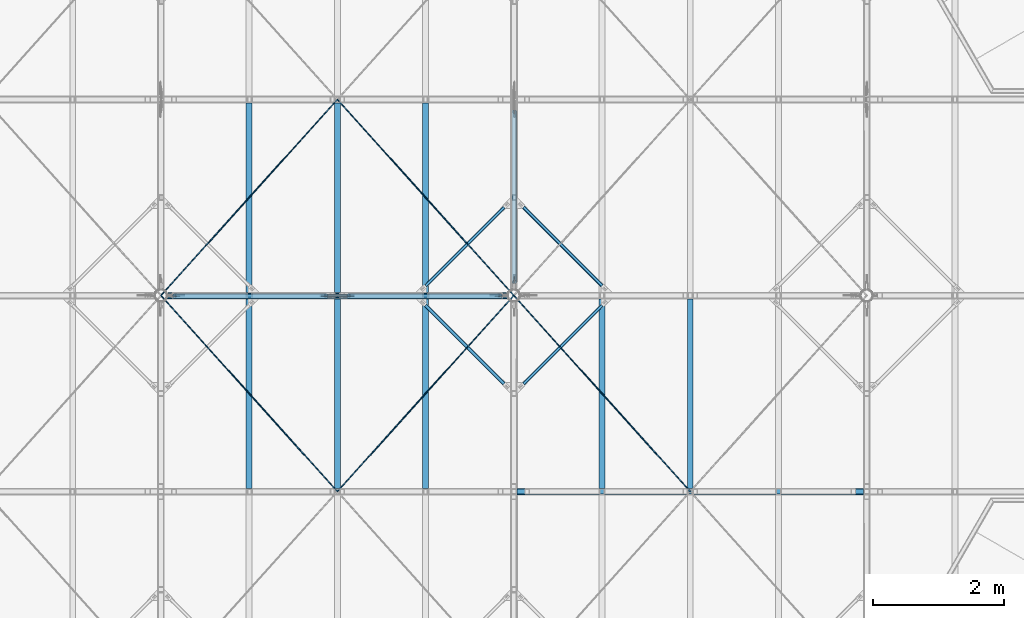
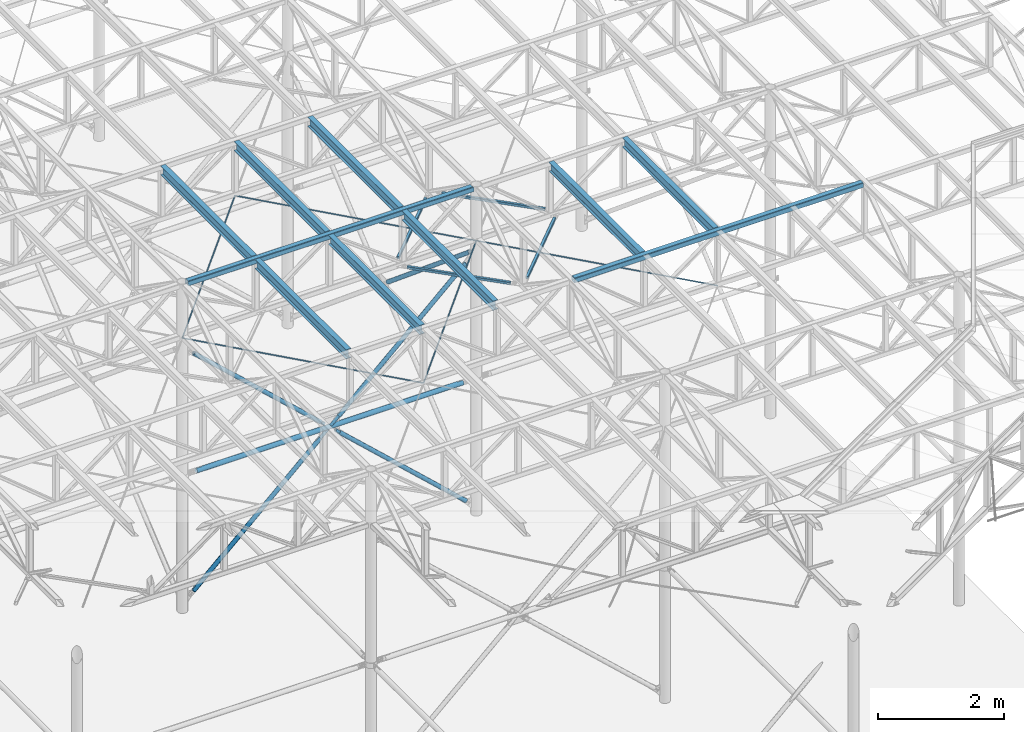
# One storey, part 13 of 132: 20 beams, 8 members, 28 elements without a shape of their own.
"""IFC2X3 building model written with IfcOpenShell, lengths in millimetres."""

from ifc_helpers import new_model, si_unit, frame, origin_with_axes, origin_2d_with_axis, place, context, subcontext, project, spatial, rectangle, hollow_rectangle, circle, hollow_circle, i_section, extrude, boolean, clip, halfspace, material, type_object, element, aggregate, save


model = new_model("IFC2X3")

# Units and contexts
model_context = context("Model", 3, precision=1e-05, world=origin_with_axes())
body_context = subcontext(model_context, "Body", "Model", "MODEL_VIEW")
ifc_project = project(units=[si_unit("LENGTHUNIT", "METRE", prefix="MILLI"), si_unit("AREAUNIT", "SQUARE_METRE"), si_unit("VOLUMEUNIT", "CUBIC_METRE"), si_unit("MASSUNIT", "GRAM", prefix="KILO"), si_unit("TIMEUNIT", "SECOND"), si_unit("PLANEANGLEUNIT", "RADIAN"), si_unit("SOLIDANGLEUNIT", "STERADIAN"), si_unit("THERMODYNAMICTEMPERATUREUNIT", "DEGREE_CELSIUS"), si_unit("LUMINOUSINTENSITYUNIT", "LUMEN")], contexts=[model_context])

# Site, building, storey
site_placement = place(None, origin_with_axes())
site = spatial("IfcSite", under=ifc_project, at=site_placement, Name="Budowa", CompositionType="ELEMENT")
building_placement = place(site_placement, origin_with_axes())
building = spatial("IfcBuilding", under=site, at=building_placement, Name="Undefined", CompositionType="ELEMENT")
storey_placement = place(building_placement, origin_with_axes())
storey = spatial("IfcBuildingStorey", under=building, at=storey_placement, Name="Undefined", CompositionType="ELEMENT", Elevation=0.0)

# Assembly, member
assembly_1_placement = place(storey_placement, origin_with_axes())
assembly_1 = element("IfcElementAssembly", 1, at=assembly_1_placement, inside=storey, Name="Steel Assembly", AssemblyPlace="NOTDEFINED", PredefinedType="RIGID_FRAME")
ifc_material_1 = material(Name="STEEL/S235JR")
member_type_1 = type_object("IfcMemberType", Name="CHS76.1*3", PredefinedType="NOTDEFINED")
member_1_placement = place(assembly_1_placement, frame((14833.0000023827, 15000.0003165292, 10116.000758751), z_axis=(-1.0, 0.0, 0.0), x_axis=(0.0, -0.76906919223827, 0.639165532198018)))
member_1 = element("IfcMember", 2, at=member_1_placement, type_object=member_type_1, material=ifc_material_1, Name="BEAM", ObjectType="CHS76.1*3", context=body_context, shape_type="CSG", body=[
    boolean("DIFFERENCE", boolean("DIFFERENCE", boolean("DIFFERENCE", boolean("DIFFERENCE", extrude(hollow_circle(Radius=38.05, WallThickness=3.0, at=origin_2d_with_axis()), frame((3633.55016925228, 2.01702552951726e-13, 0.0), z_axis=(-1.0, 0.0, 0.0), x_axis=(0.0, -1.0, 0.0)), (0.0, 0.0, 1.0), 3395.69), extrude(rectangle(XDim=10.0, YDim=80.1, at=origin_2d_with_axis()), frame((318.860379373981, -4.43045600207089e-12, 2.01593366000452e-06), z_axis=(-1.0, 0.0, 0.0), x_axis=(0.0, 0.0, 1.0)), (0.0, 0.0, 1.0), 83.0)), extrude(rectangle(XDim=10.0, YDim=78.0, at=origin_2d_with_axis()), frame((3552.55016925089, 7.63649267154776e-08, 2.41727320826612e-06), z_axis=(1.0, 0.0, 0.0), x_axis=(0.0, 0.0, 1.0)), (0.0, 0.0, 1.0), 93.0)), halfspace(frame((3633.55016925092, 7.63648131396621e-08, 12.0000024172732), z_axis=(-1.0, 0.0, 0.0), x_axis=(0.0, -1.0, 0.0)), True)), halfspace(frame((237.860375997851, -1.09139364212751e-11, 12.0000032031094), z_axis=(1.0, 0.0, 0.0), x_axis=(0.0, 1.0, 0.0)), True)),
])
aggregate(assembly_1, [member_1])

assembly_2_placement = place(storey_placement, origin_with_axes())
assembly_2 = element("IfcElementAssembly", 3, at=assembly_2_placement, inside=storey, Name="Steel Assembly", AssemblyPlace="NOTDEFINED", PredefinedType="RIGID_FRAME")
member_2_placement = place(assembly_2_placement, frame((12125.000921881, 11990.0000000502, 10115.9999960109), z_axis=(0.0, -1.0, 0.0), x_axis=(-0.734552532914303, 0.0, -0.67855182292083)))
member_2 = element("IfcMember", 4, at=member_2_placement, type_object=member_type_1, material=ifc_material_1, Name="BEAM", ObjectType="CHS76.1*3", context=body_context, shape_type="CSG", body=[
    boolean("DIFFERENCE", boolean("DIFFERENCE", boolean("DIFFERENCE", boolean("DIFFERENCE", extrude(hollow_circle(Radius=38.05, WallThickness=3.0, at=origin_2d_with_axis()), frame((3399.19882110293, 0.0, 0.0), z_axis=(-1.0, 0.0, 0.0), x_axis=(0.0, -1.0, 0.0)), (0.0, 0.0, 1.0), 3169.77), extrude(rectangle(XDim=10.0, YDim=80.1, at=origin_2d_with_axis()), frame((310.424006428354, -6.75809408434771e-12, 2.93223274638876e-06), z_axis=(-1.0, 0.0, 0.0), x_axis=(0.0, 0.0, -1.0)), (0.0, 0.0, 1.0), 83.0)), extrude(rectangle(XDim=10.0, YDim=78.1, at=origin_2d_with_axis()), frame((3318.19882110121, -3.83376469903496e-07, 2.42306487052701e-06), z_axis=(1.0, 0.0, 0.0), x_axis=(0.0, 0.0, -1.0)), (0.0, 0.0, 1.0), 93.0)), halfspace(frame((3399.19882110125, -3.83374754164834e-07, -11.9999975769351), z_axis=(-1.0, 0.0, 0.0), x_axis=(0.0, 1.0, 0.0)), True)), halfspace(frame((229.424006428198, -7.27595761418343e-12, -11.9999970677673), z_axis=(1.0, 0.0, 0.0), x_axis=(0.0, -1.0, 0.0)), True)),
])
aggregate(assembly_2, [member_2])

assembly_3_placement = place(storey_placement, origin_with_axes())
assembly_3 = element("IfcElementAssembly", 5, at=assembly_3_placement, inside=storey, Name="Steel Assembly", AssemblyPlace="NOTDEFINED", PredefinedType="RIGID_FRAME")
member_3_placement = place(assembly_3_placement, frame((12125.0013347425, 11990.0000000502, 10116.0003779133), z_axis=(0.0, -1.0, 0.0), x_axis=(0.734552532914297, 0.0, -0.678551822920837)))
member_3 = element("IfcMember", 6, at=member_3_placement, type_object=member_type_1, material=ifc_material_1, Name="BEAM", ObjectType="CHS76.1*3", context=body_context, shape_type="CSG", body=[
    boolean("DIFFERENCE", boolean("DIFFERENCE", boolean("DIFFERENCE", boolean("DIFFERENCE", extrude(hollow_circle(Radius=38.05, WallThickness=3.0, at=origin_2d_with_axis()), frame((3399.19575233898, -1.88693269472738e-13, 0.0), z_axis=(-1.0, 0.0, 0.0), x_axis=(0.0, -1.0, 0.0)), (0.0, 0.0, 1.0), 3169.77), extrude(rectangle(XDim=10.0, YDim=80.1, at=origin_2d_with_axis()), frame((310.424563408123, 8.74467165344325e-13, 2.93223274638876e-06), z_axis=(-1.0, 0.0, 0.0), x_axis=(0.0, 0.0, -1.0)), (0.0, 0.0, 1.0), 83.0)), extrude(rectangle(XDim=10.0, YDim=78.1, at=origin_2d_with_axis()), frame((3318.19575233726, 0.0, 2.70282180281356e-06), z_axis=(1.0, 0.0, 0.0), x_axis=(0.0, 0.0, -1.0)), (0.0, 0.0, 1.0), 93.0)), halfspace(frame((3399.1957523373, -5.45696821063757e-12, -11.9999972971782), z_axis=(-1.0, 0.0, 0.0), x_axis=(0.0, 1.0, 0.0)), True)), halfspace(frame((229.424563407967, 5.45696821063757e-12, -11.9999970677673), z_axis=(1.0, 0.0, 0.0), x_axis=(0.0, -1.0, 0.0)), True)),
])
aggregate(assembly_3, [member_3])

assembly_4_placement = place(storey_placement, origin_with_axes())
assembly_4 = element("IfcElementAssembly", 7, at=assembly_4_placement, inside=storey, Name="Steel Assembly", AssemblyPlace="NOTDEFINED", PredefinedType="RIGID_FRAME")
member_4_placement = place(assembly_4_placement, frame((14684.1014860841, 11990.0000000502, 12480.0002212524), z_axis=(0.0, -1.0, 0.0), x_axis=(-0.734552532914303, 0.0, -0.67855182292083)))
member_4 = element("IfcMember", 8, at=member_4_placement, type_object=member_type_1, material=ifc_material_1, Name="BEAM", ObjectType="CHS76.1*3", context=body_context, shape_type="CSG", body=[
    boolean("DIFFERENCE", boolean("DIFFERENCE", boolean("DIFFERENCE", boolean("DIFFERENCE", extrude(hollow_circle(Radius=38.05, WallThickness=3.0, at=origin_2d_with_axis()), frame((3254.46533546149, 0.0, 0.0), z_axis=(-1.0, 0.0, 0.0), x_axis=(0.0, -1.0, 0.0)), (0.0, 0.0, 1.0), 3169.77), extrude(rectangle(XDim=10.0, YDim=80.1, at=origin_2d_with_axis()), frame((3173.46533545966, 5.74262859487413e-12, 3.21735569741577e-06), z_axis=(1.0, 0.0, 0.0), x_axis=(0.0, 0.0, -1.0)), (0.0, 0.0, 1.0), 83.0)), extrude(rectangle(XDim=10.0, YDim=78.1, at=origin_2d_with_axis()), frame((165.694149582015, 0.0, 2.42306850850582e-06), z_axis=(-1.0, 0.0, 0.0), x_axis=(0.0, 0.0, -1.0)), (0.0, 0.0, 1.0), 93.0)), halfspace(frame((3254.46533545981, 3.63797880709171e-12, -11.9999967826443), z_axis=(-1.0, 0.0, 0.0), x_axis=(0.0, 1.0, 0.0)), True)), halfspace(frame((84.6941495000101, -0.00128033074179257, -11.9999975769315), z_axis=(1.0, 0.0, 0.0), x_axis=(0.0, -1.0, 0.0)), True)),
])
aggregate(assembly_4, [member_4])

assembly_5_placement = place(storey_placement, origin_with_axes())
assembly_5 = element("IfcElementAssembly", 9, at=assembly_5_placement, inside=storey, Name="Steel Assembly", AssemblyPlace="NOTDEFINED", PredefinedType="RIGID_FRAME")
member_5_placement = place(assembly_5_placement, frame((9565.90118396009, 11990.0000000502, 12480.0002212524), z_axis=(0.0, -1.0, 0.0), x_axis=(0.734552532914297, 0.0, -0.678551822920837)))
member_5 = element("IfcMember", 10, at=member_5_placement, type_object=member_type_1, material=ifc_material_1, Name="BEAM", ObjectType="CHS76.1*3", context=body_context, shape_type="CSG", body=[
    boolean("DIFFERENCE", boolean("DIFFERENCE", boolean("DIFFERENCE", boolean("DIFFERENCE", extrude(hollow_circle(Radius=38.05, WallThickness=3.0, at=origin_2d_with_axis()), frame((3254.46533546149, 0.0, 0.0), z_axis=(-1.0, 0.0, 0.0), x_axis=(0.0, -1.0, 0.0)), (0.0, 0.0, 1.0), 3169.77), extrude(rectangle(XDim=10.0, YDim=80.1, at=origin_2d_with_axis()), frame((3173.46533545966, 5.74262859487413e-12, 3.21735569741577e-06), z_axis=(1.0, 0.0, 0.0), x_axis=(0.0, 0.0, -1.0)), (0.0, 0.0, 1.0), 83.0)), extrude(rectangle(XDim=10.0, YDim=78.1, at=origin_2d_with_axis()), frame((165.690516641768, -1.58151269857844e-12, 2.52268364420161e-06), z_axis=(-1.0, 0.0, 0.0), x_axis=(0.0, 0.0, -1.0)), (0.0, 0.0, 1.0), 93.0)), halfspace(frame((3254.46533545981, 3.63797880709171e-12, -11.9999967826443), z_axis=(-1.0, 0.0, 0.0), x_axis=(0.0, 1.0, 0.0)), True)), halfspace(frame((84.6905166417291, 1.81898940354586e-12, -11.9999974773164), z_axis=(1.0, 0.0, 0.0), x_axis=(0.0, -1.0, 0.0)), True)),
])
aggregate(assembly_5, [member_5])

# Assembly, beam
assembly_6_placement = place(storey_placement, origin_with_axes())
assembly_6 = element("IfcElementAssembly", 11, at=assembly_6_placement, inside=storey, Name="Steel Assembly", AssemblyPlace="NOTDEFINED", PredefinedType="RIGID_FRAME")
beam_type_1 = type_object("IfcBeamType", Name="CHS88.9*3", PredefinedType="NOTDEFINED")
beam_1_placement = place(assembly_6_placement, frame((9513.90113818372, 11998.0000028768, 10116.0003779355), z_axis=(0.0, -1.0, 0.0), x_axis=(1.0, 0.0, 0.0)))
beam_1 = element("IfcBeam", 12, at=beam_1_placement, type_object=beam_type_1, material=ifc_material_1, Name="BEAM", ObjectType="CHS88.9*3", context=body_context, shape_type="CSG", body=[
    boolean("DIFFERENCE", boolean("DIFFERENCE", boolean("DIFFERENCE", boolean("DIFFERENCE", boolean("DIFFERENCE", extrude(hollow_circle(Radius=44.45, WallThickness=3.0, at=origin_2d_with_axis()), frame((5057.96216744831, 0.0, 0.0), z_axis=(-1.0, 0.0, 0.0), x_axis=(0.0, -1.0, 0.0)), (0.0, 0.0, 1.0), 4893.73), extrude(rectangle(XDim=9.0, YDim=92.9, at=origin_2d_with_axis()), frame((265.235555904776, 1.81898940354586e-12, 3.42543353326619e-06), z_axis=(-1.0, 0.0, 0.0), x_axis=(0.0, 0.0, 1.0)), (0.0, 0.0, 1.0), 103.0)), extrude(rectangle(XDim=9.0, YDim=92.9, at=origin_2d_with_axis()), frame((4956.96216744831, 1.81898940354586e-12, 3.42543353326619e-06), z_axis=(1.0, 0.0, 0.0), x_axis=(0.0, 0.0, -1.0)), (0.0, 0.0, 1.0), 103.0)), extrude(rectangle(XDim=8.0, YDim=80.1, at=origin_2d_with_axis()), frame((5006.96216666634, 0.0, 2.93223274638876e-06), z_axis=(1.0, 0.0, 0.0), x_axis=(0.0, 0.0, 1.0)), (0.0, 0.0, 1.0), 82.0)), halfspace(frame((5057.96216744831, 1.81898940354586e-12, -11.9999965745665), z_axis=(-1.0, 0.0, 0.0), x_axis=(0.0, 1.0, 0.0)), True)), halfspace(frame((164.235555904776, 1.81898940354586e-12, -11.9999965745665), z_axis=(1.0, 0.0, 0.0), x_axis=(0.0, 0.0, 1.0)), True)),
])
aggregate(assembly_6, [beam_1])

# Assembly, member
assembly_7_placement = place(storey_placement, origin_with_axes())
assembly_7 = element("IfcElementAssembly", 13, at=assembly_7_placement, inside=storey, Name="Steel Assembly", AssemblyPlace="NOTDEFINED", PredefinedType="RIGID_FRAME")
ifc_material_2 = material(Name="STEEL/S235")
member_type_2 = type_object("IfcMemberType", Name="CHS60.3*6.3", PredefinedType="NOTDEFINED")
member_6_placement = place(assembly_7_placement, frame((12125.0013347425, 11992.0000000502, 10116.0003779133), z_axis=(0.0, -1.0, 0.0), x_axis=(0.734552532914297, 0.0, -0.678551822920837)))
member_6 = element("IfcMember", 14, at=member_6_placement, type_object=member_type_2, material=ifc_material_2, Name="BEAM", ObjectType="CHS60.3*6.3", context=body_context, shape_type="CSG", body=[
    boolean("DIFFERENCE", boolean("DIFFERENCE", boolean("DIFFERENCE", boolean("DIFFERENCE", extrude(hollow_circle(Radius=30.15, WallThickness=6.3, at=origin_2d_with_axis()), frame((3409.19575233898, -1.89248380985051e-13, -3.63797880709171e-12), z_axis=(-1.0, 0.0, 0.0), x_axis=(0.0, -1.0, 0.0)), (0.0, 0.0, 1.0), 3266.98), extrude(rectangle(XDim=8.0, YDim=64.3, at=origin_2d_with_axis()), frame((3359.19575233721, 2.18269846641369e-12, 2.70281816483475e-06), z_axis=(1.0, 0.0, 0.0), x_axis=(0.0, 0.0, -1.0)), (0.0, 0.0, 1.0), 52.0)), extrude(rectangle(XDim=8.0, YDim=64.3, at=origin_2d_with_axis()), frame((192.216896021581, -3.32911476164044e-12, 2.323435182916e-06), z_axis=(-1.0, 0.0, 0.0), x_axis=(0.0, 0.0, -1.0)), (0.0, 0.0, 1.0), 52.0)), halfspace(frame((3409.1957523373, 0.0, -11.9999972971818), z_axis=(-1.0, 0.0, 0.0), x_axis=(0.0, 1.0, 0.0)), True)), halfspace(frame((142.216896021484, -5.45696821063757e-12, -11.9999976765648), z_axis=(1.0, 0.0, 0.0), x_axis=(0.0, -1.0, 0.0)), True)),
])
aggregate(assembly_7, [member_6])

assembly_8_placement = place(storey_placement, origin_with_axes())
assembly_8 = element("IfcElementAssembly", 15, at=assembly_8_placement, inside=storey, Name="Steel Assembly", AssemblyPlace="NOTDEFINED", PredefinedType="RIGID_FRAME")
member_7_placement = place(assembly_8_placement, frame((14684.1014860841, 11992.0000000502, 12480.0002212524), z_axis=(0.0, -1.0, 0.0), x_axis=(-0.734552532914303, 0.0, -0.67855182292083)))
member_7 = element("IfcMember", 16, at=member_7_placement, type_object=member_type_2, material=ifc_material_2, Name="BEAM", ObjectType="CHS60.3*6.3", context=body_context, shape_type="CSG", body=[
    boolean("DIFFERENCE", boolean("DIFFERENCE", boolean("DIFFERENCE", boolean("DIFFERENCE", extrude(hollow_circle(Radius=30.15, WallThickness=6.3, at=origin_2d_with_axis()), frame((6893.08928483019, 3.82643321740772e-13, -3.63797880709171e-12), z_axis=(-1.0, 0.0, 0.0), x_axis=(0.0, -1.0, 0.0)), (0.0, 0.0, 1.0), 6818.4), extrude(rectangle(XDim=8.0, YDim=64.3, at=origin_2d_with_axis()), frame((124.694149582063, -2.13606909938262e-13, 2.42306487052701e-06), z_axis=(-1.0, 0.0, 0.0), x_axis=(0.0, 0.0, -1.0)), (0.0, 0.0, 1.0), 52.0)), extrude(rectangle(XDim=8.0, YDim=64.3, at=origin_2d_with_axis()), frame((6843.08928482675, 2.23465690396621e-12, 2.42306487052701e-06), z_axis=(1.0, 0.0, 0.0), x_axis=(0.0, 0.0, -1.0)), (0.0, 0.0, 1.0), 52.0)), halfspace(frame((6893.08928482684, 4.54747350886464e-12, -11.9999975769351), z_axis=(-1.0, 0.0, 0.0), x_axis=(0.0, 1.0, 0.0)), True)), halfspace(frame((74.6941495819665, -3.63797880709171e-12, -11.9999975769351), z_axis=(1.0, 0.0, 0.0), x_axis=(0.0, -1.0, 0.0)), True)),
])
aggregate(assembly_8, [member_7])

assembly_9_placement = place(storey_placement, origin_with_axes())
assembly_9 = element("IfcElementAssembly", 17, at=assembly_9_placement, inside=storey, Name="Steel Assembly", AssemblyPlace="NOTDEFINED", PredefinedType="RIGID_FRAME")
member_8_placement = place(assembly_9_placement, frame((9565.90118396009, 11992.0000000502, 12480.0002212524), z_axis=(0.0, -1.0, 0.0), x_axis=(0.734552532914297, 0.0, -0.678551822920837)))
member_8 = element("IfcMember", 18, at=member_8_placement, type_object=member_type_2, material=ifc_material_2, Name="BEAM", ObjectType="CHS60.3*6.3", context=body_context, shape_type="CSG", body=[
    boolean("DIFFERENCE", boolean("DIFFERENCE", boolean("DIFFERENCE", boolean("DIFFERENCE", extrude(hollow_circle(Radius=30.15, WallThickness=6.3, at=origin_2d_with_axis()), frame((3341.67300460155, 1.85500115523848e-13, 3.63797880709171e-12), z_axis=(-1.0, 0.0, 0.0), x_axis=(0.0, -1.0, 0.0)), (0.0, 0.0, 1.0), 3266.98), extrude(rectangle(XDim=8.0, YDim=64.3, at=origin_2d_with_axis()), frame((124.690516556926, 3.26183524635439e-13, 2.52269092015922e-06), z_axis=(-1.0, 0.0, 0.0), x_axis=(0.0, 0.0, -1.0)), (0.0, 0.0, 1.0), 52.0)), extrude(rectangle(XDim=8.0, YDim=64.3, at=origin_2d_with_axis()), frame((3291.67300459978, 1.0103029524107e-12, 2.52269092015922e-06), z_axis=(1.0, 0.0, 0.0), x_axis=(0.0, 0.0, -1.0)), (0.0, 0.0, 1.0), 52.0)), halfspace(frame((3341.67300459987, 0.0, -11.9999974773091), z_axis=(-1.0, 0.0, 0.0), x_axis=(0.0, 1.0, 0.0)), True)), halfspace(frame((74.6905165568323, 3.63797880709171e-12, -11.9999974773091), z_axis=(1.0, 0.0, 0.0), x_axis=(0.0, -1.0, 0.0)), True)),
])
aggregate(assembly_9, [member_8])

# Assembly, beam
assembly_10_placement = place(storey_placement, origin_with_axes())
assembly_10 = element("IfcElementAssembly", 19, at=assembly_10_placement, inside=storey, Name="Steel Assembly", AssemblyPlace="NOTDEFINED", PredefinedType="RIGID_FRAME")
beam_type_2 = type_object("IfcBeamType", Name="IPE180", PredefinedType="NOTDEFINED")
beam_2_placement = place(assembly_10_placement, frame((16174.9999999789, 9050.00000004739, 13790.0), z_axis=(0.0, 0.0, 1.0), x_axis=(0.0, 1.0, 0.0)))
beam_2 = element("IfcBeam", 20, at=beam_2_placement, type_object=beam_type_2, material=ifc_material_2, Name="BEAM", ObjectType="IPE180", context=body_context, shape_type="SweptSolid", body=[
    extrude(i_section(OverallWidth=91.0, OverallDepth=180.0, WebThickness=5.300000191, FlangeThickness=8.0, FilletRadius=9.0, at=origin_2d_with_axis()), frame((2900.00000000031, 0.0, 0.0), z_axis=(-1.0, 0.0, 0.0), x_axis=(0.0, -1.0, 0.0)), (0.0, 0.0, 1.0), 2900.0),
])
aggregate(assembly_10, [beam_2])

assembly_11_placement = place(storey_placement, origin_with_axes())
assembly_11 = element("IfcElementAssembly", 21, at=assembly_11_placement, inside=storey, Name="Steel Assembly", AssemblyPlace="NOTDEFINED", PredefinedType="RIGID_FRAME")
beam_3_placement = place(assembly_11_placement, frame((17524.9999999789, 9050.00000004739, 13790.0), z_axis=(0.0, 0.0, 1.0), x_axis=(0.0, 1.0, 0.0)))
beam_3 = element("IfcBeam", 22, at=beam_3_placement, type_object=beam_type_2, material=ifc_material_2, Name="BEAM", ObjectType="IPE180", context=body_context, shape_type="SweptSolid", body=[
    extrude(i_section(OverallWidth=91.0, OverallDepth=180.0, WebThickness=5.300000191, FlangeThickness=8.0, FilletRadius=9.0, at=origin_2d_with_axis()), frame((2900.00000000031, 0.0, 0.0), z_axis=(-1.0, 0.0, 0.0), x_axis=(0.0, -1.0, 0.0)), (0.0, 0.0, 1.0), 2900.0),
])
aggregate(assembly_11, [beam_3])

assembly_12_placement = place(storey_placement, origin_with_axes())
assembly_12 = element("IfcElementAssembly", 23, at=assembly_12_placement, inside=storey, Name="Steel Assembly", AssemblyPlace="NOTDEFINED", PredefinedType="RIGID_FRAME")
beam_4_placement = place(assembly_12_placement, frame((10774.9999999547, 12050.000000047, 13790.0), z_axis=(0.0, 0.0, 1.0), x_axis=(0.0, 1.0, 0.0)))
beam_4 = element("IfcBeam", 24, at=beam_4_placement, type_object=beam_type_2, material=ifc_material_2, Name="BEAM", ObjectType="IPE180", context=body_context, shape_type="SweptSolid", body=[
    extrude(i_section(OverallWidth=91.0, OverallDepth=180.0, WebThickness=5.300000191, FlangeThickness=8.0, FilletRadius=9.0, at=origin_2d_with_axis()), frame((2900.00000000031, 0.0, 0.0), z_axis=(-1.0, 0.0, 0.0), x_axis=(0.0, -1.0, 0.0)), (0.0, 0.0, 1.0), 2900.0),
])
aggregate(assembly_12, [beam_4])

assembly_13_placement = place(storey_placement, origin_with_axes())
assembly_13 = element("IfcElementAssembly", 25, at=assembly_13_placement, inside=storey, Name="Steel Assembly", AssemblyPlace="NOTDEFINED", PredefinedType="RIGID_FRAME")
beam_5_placement = place(assembly_13_placement, frame((10774.9999999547, 9050.00000004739, 13790.0), z_axis=(0.0, 0.0, 1.0), x_axis=(0.0, 1.0, 0.0)))
beam_5 = element("IfcBeam", 26, at=beam_5_placement, type_object=beam_type_2, material=ifc_material_2, Name="BEAM", ObjectType="IPE180", context=body_context, shape_type="SweptSolid", body=[
    extrude(i_section(OverallWidth=91.0, OverallDepth=180.0, WebThickness=5.300000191, FlangeThickness=8.0, FilletRadius=9.0, at=origin_2d_with_axis()), frame((2900.00000000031, 0.0, 0.0), z_axis=(-1.0, 0.0, 0.0), x_axis=(0.0, -1.0, 0.0)), (0.0, 0.0, 1.0), 2900.0),
])
aggregate(assembly_13, [beam_5])

assembly_14_placement = place(storey_placement, origin_with_axes())
assembly_14 = element("IfcElementAssembly", 27, at=assembly_14_placement, inside=storey, Name="Steel Assembly", AssemblyPlace="NOTDEFINED", PredefinedType="RIGID_FRAME")
beam_6_placement = place(assembly_14_placement, frame((13474.9999999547, 12050.000000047, 13790.0), z_axis=(0.0, 0.0, 1.0), x_axis=(0.0, 1.0, 0.0)))
beam_6 = element("IfcBeam", 28, at=beam_6_placement, type_object=beam_type_2, material=ifc_material_2, Name="BEAM", ObjectType="IPE180", context=body_context, shape_type="SweptSolid", body=[
    extrude(i_section(OverallWidth=91.0, OverallDepth=180.0, WebThickness=5.300000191, FlangeThickness=8.0, FilletRadius=9.0, at=origin_2d_with_axis()), frame((2900.00000000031, 0.0, 0.0), z_axis=(-1.0, 0.0, 0.0), x_axis=(0.0, -1.0, 0.0)), (0.0, 0.0, 1.0), 2900.0),
])
aggregate(assembly_14, [beam_6])

assembly_15_placement = place(storey_placement, origin_with_axes())
assembly_15 = element("IfcElementAssembly", 29, at=assembly_15_placement, inside=storey, Name="Steel Assembly", AssemblyPlace="NOTDEFINED", PredefinedType="RIGID_FRAME")
beam_7_placement = place(assembly_15_placement, frame((13474.9999999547, 9050.00000004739, 13790.0), z_axis=(0.0, 0.0, 1.0), x_axis=(0.0, 1.0, 0.0)))
beam_7 = element("IfcBeam", 30, at=beam_7_placement, type_object=beam_type_2, material=ifc_material_2, Name="BEAM", ObjectType="IPE180", context=body_context, shape_type="SweptSolid", body=[
    extrude(i_section(OverallWidth=91.0, OverallDepth=180.0, WebThickness=5.300000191, FlangeThickness=8.0, FilletRadius=9.0, at=origin_2d_with_axis()), frame((2900.00000000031, 0.0, 0.0), z_axis=(-1.0, 0.0, 0.0), x_axis=(0.0, -1.0, 0.0)), (0.0, 0.0, 1.0), 2900.0),
])
aggregate(assembly_15, [beam_7])

assembly_16_placement = place(storey_placement, origin_with_axes())
assembly_16 = element("IfcElementAssembly", 31, at=assembly_16_placement, inside=storey, Name="Steel Assembly", AssemblyPlace="NOTDEFINED", PredefinedType="RIGID_FRAME")
beam_8_placement = place(assembly_16_placement, frame((12124.9999999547, 12050.000000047, 13790.0), z_axis=(0.0, 0.0, 1.0), x_axis=(0.0, 1.0, 0.0)))
beam_8 = element("IfcBeam", 32, at=beam_8_placement, type_object=beam_type_2, material=ifc_material_2, Name="BEAM", ObjectType="IPE180", context=body_context, shape_type="SweptSolid", body=[
    extrude(i_section(OverallWidth=91.0, OverallDepth=180.0, WebThickness=5.300000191, FlangeThickness=8.0, FilletRadius=9.0, at=origin_2d_with_axis()), frame((2900.00000000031, 0.0, 0.0), z_axis=(-1.0, 0.0, 0.0), x_axis=(0.0, -1.0, 0.0)), (0.0, 0.0, 1.0), 2900.0),
])
aggregate(assembly_16, [beam_8])

assembly_17_placement = place(storey_placement, origin_with_axes())
assembly_17 = element("IfcElementAssembly", 33, at=assembly_17_placement, inside=storey, Name="Steel Assembly", AssemblyPlace="NOTDEFINED", PredefinedType="RIGID_FRAME")
beam_9_placement = place(assembly_17_placement, frame((12124.9999999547, 9050.00000004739, 13790.0), z_axis=(0.0, 0.0, 1.0), x_axis=(0.0, 1.0, 0.0)))
beam_9 = element("IfcBeam", 34, at=beam_9_placement, type_object=beam_type_2, material=ifc_material_2, Name="BEAM", ObjectType="IPE180", context=body_context, shape_type="SweptSolid", body=[
    extrude(i_section(OverallWidth=91.0, OverallDepth=180.0, WebThickness=5.300000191, FlangeThickness=8.0, FilletRadius=9.0, at=origin_2d_with_axis()), frame((2900.00000000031, 0.0, 0.0), z_axis=(-1.0, 0.0, 0.0), x_axis=(0.0, -1.0, 0.0)), (0.0, 0.0, 1.0), 2900.0),
])
aggregate(assembly_17, [beam_9])

assembly_18_placement = place(storey_placement, origin_with_axes())
assembly_18 = element("IfcElementAssembly", 35, at=assembly_18_placement, inside=storey, Name="Steel Assembly", AssemblyPlace="NOTDEFINED", PredefinedType="RIGID_FRAME")
beam_type_3 = type_object("IfcBeamType", Name="D16", PredefinedType="NOTDEFINED")
beam_10_placement = place(assembly_18_placement, frame((12124.9999986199, 15000.0000000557, 12780.0), z_axis=(0.0, 0.0, 1.0), x_axis=(-0.668964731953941, -0.743294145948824, 0.0)))
beam_10 = element("IfcBeam", 36, at=beam_10_placement, type_object=beam_type_3, material=ifc_material_2, Name="BEAM", ObjectType="D16", context=body_context, shape_type="SweptSolid", body=[
    extrude(circle(Radius=8.0, at=origin_2d_with_axis()), frame((4036.08721501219, 2.30699503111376e-13, 1.81898940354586e-12), z_axis=(-1.0, 0.0, 0.0), x_axis=(0.0, -1.0, 0.0)), (0.0, 0.0, 1.0), 4036.09),
])
aggregate(assembly_18, [beam_10])

assembly_19_placement = place(storey_placement, origin_with_axes())
assembly_19 = element("IfcElementAssembly", 37, at=assembly_19_placement, inside=storey, Name="Steel Assembly", AssemblyPlace="NOTDEFINED", PredefinedType="RIGID_FRAME")
beam_11_placement = place(assembly_19_placement, frame((14824.9999999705, 12000.0000000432, 12780.0), z_axis=(0.0, 0.0, 1.0), x_axis=(-0.668964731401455, 0.743294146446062, 0.0)))
beam_11 = element("IfcBeam", 38, at=beam_11_placement, type_object=beam_type_3, material=ifc_material_2, Name="BEAM", ObjectType="D16", context=body_context, shape_type="SweptSolid", body=[
    extrude(circle(Radius=8.0, at=origin_2d_with_axis()), frame((4036.08721501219, 2.30699503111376e-13, 1.81898940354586e-12), z_axis=(-1.0, 0.0, 0.0), x_axis=(0.0, -1.0, 0.0)), (0.0, 0.0, 1.0), 4036.09),
])
aggregate(assembly_19, [beam_11])

assembly_20_placement = place(storey_placement, origin_with_axes())
assembly_20 = element("IfcElementAssembly", 39, at=assembly_20_placement, inside=storey, Name="Steel Assembly", AssemblyPlace="NOTDEFINED", PredefinedType="RIGID_FRAME")
beam_12_placement = place(assembly_20_placement, frame((17524.999998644, 9000.00000005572, 12780.0), z_axis=(0.0, 0.0, 1.0), x_axis=(-0.668964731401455, 0.743294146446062, 0.0)))
beam_12 = element("IfcBeam", 40, at=beam_12_placement, type_object=beam_type_3, material=ifc_material_2, Name="BEAM", ObjectType="D16", context=body_context, shape_type="SweptSolid", body=[
    extrude(circle(Radius=8.0, at=origin_2d_with_axis()), frame((4036.08721501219, 2.30699503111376e-13, 1.81898940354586e-12), z_axis=(-1.0, 0.0, 0.0), x_axis=(0.0, -1.0, 0.0)), (0.0, 0.0, 1.0), 4036.09),
])
aggregate(assembly_20, [beam_12])

assembly_21_placement = place(storey_placement, origin_with_axes())
assembly_21 = element("IfcElementAssembly", 41, at=assembly_21_placement, inside=storey, Name="Steel Assembly", AssemblyPlace="NOTDEFINED", PredefinedType="RIGID_FRAME")
beam_13_placement = place(assembly_21_placement, frame((14824.9999999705, 12000.0000000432, 12780.0), z_axis=(0.0, 0.0, 1.0), x_axis=(-0.668964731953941, -0.743294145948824, 0.0)))
beam_13 = element("IfcBeam", 42, at=beam_13_placement, type_object=beam_type_3, material=ifc_material_2, Name="BEAM", ObjectType="D16", context=body_context, shape_type="SweptSolid", body=[
    extrude(circle(Radius=8.0, at=origin_2d_with_axis()), frame((4036.08721501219, 2.30699503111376e-13, 1.81898940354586e-12), z_axis=(-1.0, 0.0, 0.0), x_axis=(0.0, -1.0, 0.0)), (0.0, 0.0, 1.0), 4036.09),
])
aggregate(assembly_21, [beam_13])

assembly_22_placement = place(storey_placement, origin_with_axes())
assembly_22 = element("IfcElementAssembly", 43, at=assembly_22_placement, inside=storey, Name="Steel Assembly", AssemblyPlace="NOTDEFINED", PredefinedType="RIGID_FRAME")
beam_14_placement = place(assembly_22_placement, frame((12124.9999986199, 9000.00000005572, 12780.0), z_axis=(0.0, 0.0, 1.0), x_axis=(-0.668964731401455, 0.743294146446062, 0.0)))
beam_14 = element("IfcBeam", 44, at=beam_14_placement, type_object=beam_type_3, material=ifc_material_2, Name="BEAM", ObjectType="D16", context=body_context, shape_type="SweptSolid", body=[
    extrude(circle(Radius=8.0, at=origin_2d_with_axis()), frame((4036.08721501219, 2.30699503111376e-13, 1.81898940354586e-12), z_axis=(-1.0, 0.0, 0.0), x_axis=(0.0, -1.0, 0.0)), (0.0, 0.0, 1.0), 4036.09),
])
aggregate(assembly_22, [beam_14])

assembly_23_placement = place(storey_placement, origin_with_axes())
assembly_23 = element("IfcElementAssembly", 45, at=assembly_23_placement, inside=storey, Name="Steel Assembly", AssemblyPlace="NOTDEFINED", PredefinedType="RIGID_FRAME")
beam_type_4 = type_object("IfcBeamType", Name="SHS50*5", PredefinedType="NOTDEFINED")
beam_15_placement = place(assembly_23_placement, frame((14574.999999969, 13749.8000001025, 12830.0), z_axis=(0.0, 0.0, 1.0), x_axis=(0.707106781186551, -0.707106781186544, 0.0)))
beam_15 = element("IfcBeam", 46, at=beam_15_placement, type_object=beam_type_4, material=ifc_material_2, Name="BEAM", ObjectType="SHS50*5", context=body_context, shape_type="Clipping", body=[
    clip(clip(extrude(hollow_rectangle(XDim=50.0, YDim=50.0, WallThickness=5.0, InnerFilletRadius=5.0, OuterFilletRadius=10.0, at=origin_2d_with_axis()), frame((2264.08122086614, 0.0, 0.0), z_axis=(-1.0, 0.0, 0.0), x_axis=(0.0, -1.0, 0.0)), (0.0, 0.0, 1.0), 1700.02), halfspace(frame((2264.08122086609, 9.09494701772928e-11, -9.0), z_axis=(-1.0, 0.0, 0.0), x_axis=(0.0, 1.0, 0.0)), True)), halfspace(frame((564.063061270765, -1.43882061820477e-09, -8.99999999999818), z_axis=(1.0, 0.0, 0.0), x_axis=(0.0, -1.0, 0.0)), True)),
])
aggregate(assembly_23, [beam_15])

assembly_24_placement = place(storey_placement, origin_with_axes())
assembly_24 = element("IfcElementAssembly", 47, at=assembly_24_placement, inside=storey, Name="Steel Assembly", AssemblyPlace="NOTDEFINED", PredefinedType="RIGID_FRAME")
beam_16_placement = place(assembly_24_placement, frame((14574.999999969, 10250.0000000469, 12830.0), z_axis=(0.0, 0.0, 1.0), x_axis=(0.707106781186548, 0.707106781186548, 0.0)))
beam_16 = element("IfcBeam", 48, at=beam_16_placement, type_object=beam_type_4, material=ifc_material_2, Name="BEAM", ObjectType="SHS50*5", context=body_context, shape_type="Clipping", body=[
    clip(clip(extrude(hollow_rectangle(XDim=50.0, YDim=50.0, WallThickness=5.0, InnerFilletRadius=5.0, OuterFilletRadius=10.0, at=origin_2d_with_axis()), frame((2264.36406349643, -1.81898940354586e-12, 1.81898940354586e-12), z_axis=(-1.0, 0.0, 0.0), x_axis=(0.0, -1.0, 0.0)), (0.0, 0.0, 1.0), 1700.3), halfspace(frame((2264.36406350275, 1.44245859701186e-09, -8.99999999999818), z_axis=(-1.0, 0.0, 0.0), x_axis=(0.0, 1.0, 0.0)), True)), halfspace(frame((564.063061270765, -1.43882061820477e-09, -8.99999999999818), z_axis=(1.0, 0.0, 0.0), x_axis=(0.0, -1.0, 0.0)), True)),
])
aggregate(assembly_24, [beam_16])

assembly_25_placement = place(storey_placement, origin_with_axes())
assembly_25 = element("IfcElementAssembly", 49, at=assembly_25_placement, inside=storey, Name="Steel Assembly", AssemblyPlace="NOTDEFINED", PredefinedType="RIGID_FRAME")
beam_17_placement = place(assembly_25_placement, frame((15074.9999999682, 13749.8000001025, 12830.0), z_axis=(0.0, 0.0, 1.0), x_axis=(-0.70710678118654, -0.707106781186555, 0.0)))
beam_17 = element("IfcBeam", 50, at=beam_17_placement, type_object=beam_type_4, material=ifc_material_2, Name="BEAM", ObjectType="SHS50*5", context=body_context, shape_type="Clipping", body=[
    clip(clip(extrude(hollow_rectangle(XDim=50.0, YDim=50.0, WallThickness=5.0, InnerFilletRadius=5.0, OuterFilletRadius=10.0, at=origin_2d_with_axis()), frame((2264.08122086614, 0.0, 0.0), z_axis=(-1.0, 0.0, 0.0), x_axis=(0.0, -1.0, 0.0)), (0.0, 0.0, 1.0), 1700.02), halfspace(frame((2264.08122086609, 9.09494701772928e-11, -9.0), z_axis=(-1.0, 0.0, 0.0), x_axis=(0.0, 1.0, 0.0)), True)), halfspace(frame((564.063061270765, -1.43882061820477e-09, -8.99999999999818), z_axis=(1.0, 0.0, 0.0), x_axis=(0.0, -1.0, 0.0)), True)),
])
aggregate(assembly_25, [beam_17])

assembly_26_placement = place(storey_placement, origin_with_axes())
assembly_26 = element("IfcElementAssembly", 51, at=assembly_26_placement, inside=storey, Name="Steel Assembly", AssemblyPlace="NOTDEFINED", PredefinedType="RIGID_FRAME")
beam_18_placement = place(assembly_26_placement, frame((15074.9999999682, 10250.0000000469, 12830.0), z_axis=(0.0, 0.0, 1.0), x_axis=(-0.707106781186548, 0.707106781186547, 0.0)))
beam_18 = element("IfcBeam", 52, at=beam_18_placement, type_object=beam_type_4, material=ifc_material_2, Name="BEAM", ObjectType="SHS50*5", context=body_context, shape_type="Clipping", body=[
    clip(clip(extrude(hollow_rectangle(XDim=50.0, YDim=50.0, WallThickness=5.0, InnerFilletRadius=5.0, OuterFilletRadius=10.0, at=origin_2d_with_axis()), frame((2264.36406349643, -1.81898940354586e-12, 1.81898940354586e-12), z_axis=(-1.0, 0.0, 0.0), x_axis=(0.0, -1.0, 0.0)), (0.0, 0.0, 1.0), 1700.3), halfspace(frame((2264.36406350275, 1.44245859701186e-09, -8.99999999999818), z_axis=(-1.0, 0.0, 0.0), x_axis=(0.0, 1.0, 0.0)), True)), halfspace(frame((564.063061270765, -1.43882061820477e-09, -8.99999999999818), z_axis=(1.0, 0.0, 0.0), x_axis=(0.0, -1.0, 0.0)), True)),
])
aggregate(assembly_26, [beam_18])

assembly_27_placement = place(storey_placement, origin_with_axes())
assembly_27 = element("IfcElementAssembly", 53, at=assembly_27_placement, inside=storey, Name="Steel Assembly", AssemblyPlace="NOTDEFINED", PredefinedType="RIGID_FRAME")
beam_type_5 = type_object("IfcBeamType", Name="SHS100*8", PredefinedType="NOTDEFINED")
beam_19_placement = place(assembly_27_placement, frame((14874.9999999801, 9000.00000004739, 13830.0), z_axis=(0.0, -1.0, 0.0), x_axis=(1.0, 0.0, 0.0)))
beam_19 = element("IfcBeam", 54, at=beam_19_placement, type_object=beam_type_5, material=ifc_material_2, Name="BEAM", ObjectType="SHS100*8", context=body_context, shape_type="SweptSolid", body=[
    extrude(hollow_rectangle(XDim=100.0, YDim=100.0, WallThickness=8.0, InnerFilletRadius=8.0, OuterFilletRadius=16.0, at=origin_2d_with_axis()), frame((5300.0, 0.0, 0.0), z_axis=(-1.0, 0.0, 0.0), x_axis=(0.0, -1.0, 0.0)), (0.0, 0.0, 1.0), 5300.0),
])
aggregate(assembly_27, [beam_19])

assembly_28_placement = place(storey_placement, origin_with_axes())
assembly_28 = element("IfcElementAssembly", 55, at=assembly_28_placement, inside=storey, Name="Steel Assembly", AssemblyPlace="NOTDEFINED", PredefinedType="RIGID_FRAME")
beam_20_placement = place(assembly_28_placement, frame((9513.99999995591, 12000.000000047, 13830.0), z_axis=(0.0, -1.0, 0.0), x_axis=(1.0, 0.0, 0.0)))
beam_20 = element("IfcBeam", 56, at=beam_20_placement, type_object=beam_type_5, material=ifc_material_2, Name="BEAM", ObjectType="SHS100*8", context=body_context, shape_type="CSG", body=[
    boolean("DIFFERENCE", boolean("DIFFERENCE", boolean("DIFFERENCE", boolean("DIFFERENCE", extrude(hollow_rectangle(XDim=100.0, YDim=100.0, WallThickness=8.0, InnerFilletRadius=8.0, OuterFilletRadius=16.0, at=origin_2d_with_axis()), frame((5311.00000001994, 0.0, 0.0), z_axis=(-1.0, 0.0, 0.0), x_axis=(0.0, -1.0, 0.0)), (0.0, 0.0, 1.0), 5400.0), extrude(circle(Radius=89.9, at=origin_2d_with_axis()), frame((-89.0000000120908, 1950.0, 1.09139364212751e-11), z_axis=(0.0, -1.0, 0.0), x_axis=(0.0, 0.0, 1.0)), (0.0, 0.0, 1.0), 2100.0)), extrude(circle(Radius=89.9, at=origin_2d_with_axis()), frame((5311.00000001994, 1950.0, 7.27595761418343e-12), z_axis=(0.0, -1.0, 0.0), x_axis=(0.0, 0.0, 1.0)), (0.0, 0.0, 1.0), 2100.0)), halfspace(frame((5311.00000001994, -6339.0, 7.27595761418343e-12), z_axis=(-1.0, 0.0, 0.0), x_axis=(0.0, 0.0, -1.0)), True)), halfspace(frame((-89.0000000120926, -6339.0, 1.09139364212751e-11), z_axis=(-1.0, 0.0, 0.0), x_axis=(0.0, 0.0, -1.0)), False)),
])
aggregate(assembly_28, [beam_20])

save(model, "model.ifc")
